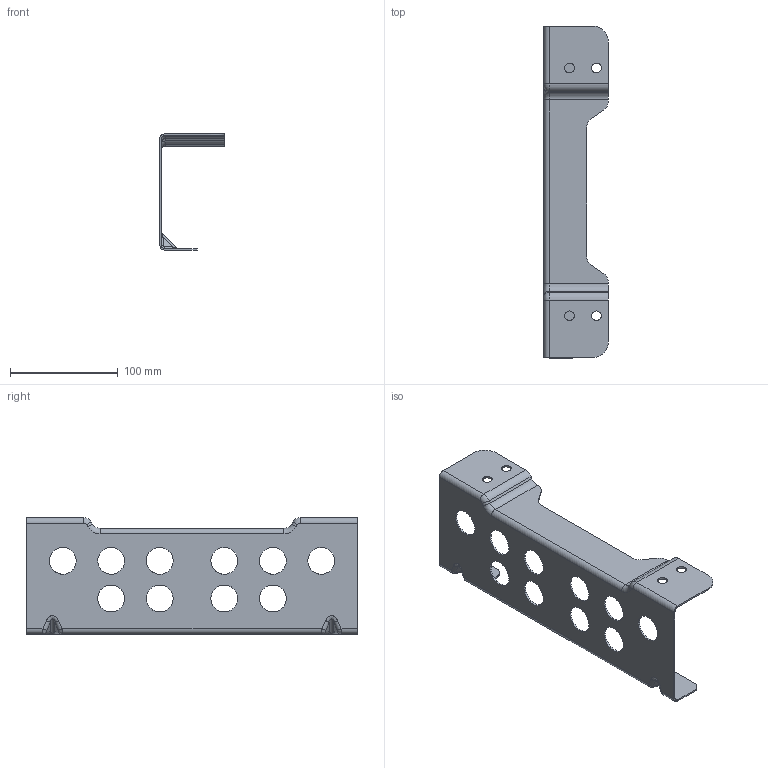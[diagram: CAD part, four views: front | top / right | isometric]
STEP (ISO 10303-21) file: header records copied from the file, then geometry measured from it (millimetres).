
FILE_DESCRIPTION(('CATIA V5 STEP Exchange'),'2;1');
FILE_NAME('D:\杨逍（新）\06-李燕龙\2023.1.9-G3新开件2D图纸-李燕龙\钣金单件图纸\SHT0015284-标配前支撑钣金\SHT0015284.stp','2023-01-11T06:30:38+00:00',('none'),('none'),'CATIA Version 5 Release 20 GA (IN-10)','CATIA V5 STEP AP214','none');
FILE_SCHEMA(('AUTOMOTIVE_DESIGN { 1 0 10303 214 1 1 1 1 }'));
Length unit declared in the file: millimetre
Products named in the file (1): Part99
Bounding box: 60 x 308 x 108.2 mm (x, y, z)
Volume: 68313.1 mm3; surface area: 94016.2 mm2
Topology: 1 solids, 1 shells, 156 faces, 414 edges, 260 vertices
Faces by surface type: cylinder 98, plane 34, bspline 16, torus 8
Entity records: 7197 total; most frequent: CARTESIAN_POINT 3591, ORIENTED_EDGE 828, DIRECTION 560, EDGE_CURVE 414, VERTEX_POINT 260, AXIS2_PLACEMENT_3D 239, VECTOR 194, LINE 194
